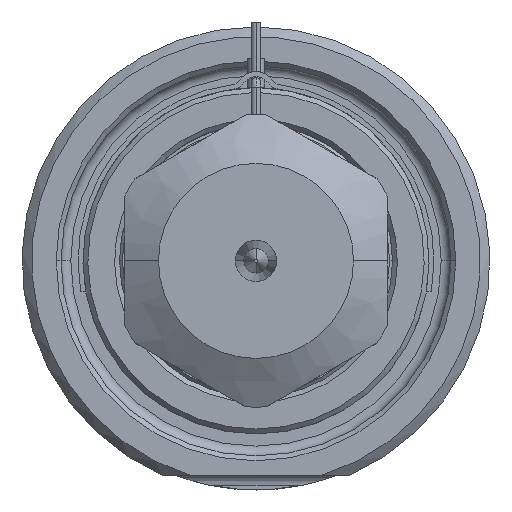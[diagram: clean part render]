
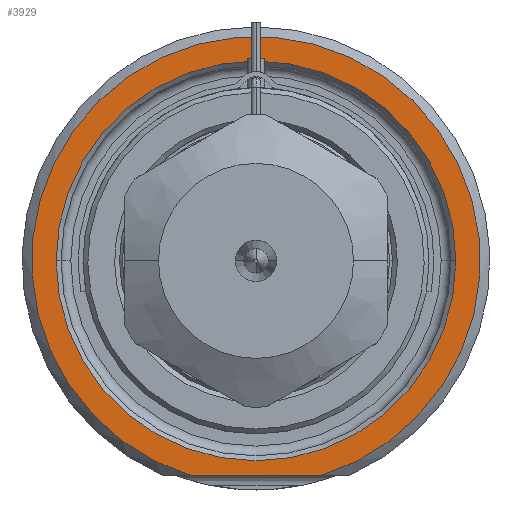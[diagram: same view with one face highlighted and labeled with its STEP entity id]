
A CAD part, front view. The second image highlights one B-rep face of the part: STEP entity #3929.
In plain terms, the highlighted planar face has unit normal (0, -1, 0).
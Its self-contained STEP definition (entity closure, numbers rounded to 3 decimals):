
#1=DIRECTION('',(1.,0.,0.));
#2=VECTOR('',#1,13.416);
#3=CARTESIAN_POINT('',(-6.708,0.,-22.));
#4=LINE('',#3,#2);
#5=CARTESIAN_POINT('',(0.,0.,0.));
#6=DIRECTION('',(0.,1.,0.));
#7=DIRECTION('',(-1.,0.,0.));
#8=AXIS2_PLACEMENT_3D('',#5,#6,#7);
#10=CARTESIAN_POINT('',(0.,0.,0.));
#11=DIRECTION('',(0.,1.,0.));
#12=DIRECTION('',(1.,0.,0.));
#13=AXIS2_PLACEMENT_3D('',#10,#11,#12);
#121=CARTESIAN_POINT('',(0.,0.,0.));
#122=DIRECTION('',(0.,-1.,0.));
#123=DIRECTION('',(0.292,0.,-0.957));
#124=AXIS2_PLACEMENT_3D('',#121,#122,#123);
#3297=CARTESIAN_POINT('',(-20.5,0.,0.));
#3298=CARTESIAN_POINT('',(20.5,0.,0.));
#3299=VERTEX_POINT('',#3297);
#3300=VERTEX_POINT('',#3298);
#3337=CARTESIAN_POINT('',(-6.708,0.,-22.));
#3338=CARTESIAN_POINT('',(6.708,0.,-22.));
#3339=VERTEX_POINT('',#3337);
#3340=VERTEX_POINT('',#3338);
#3912=CARTESIAN_POINT('',(0.,0.,0.));
#3913=DIRECTION('',(0.,-1.,0.));
#3914=DIRECTION('',(1.,0.,0.));
#3915=AXIS2_PLACEMENT_3D('',#3912,#3913,#3914);
#3916=PLANE('',#3915);
#3918=ORIENTED_EDGE('',*,*,#3917,.F.);
#3920=ORIENTED_EDGE('',*,*,#3919,.F.);
#3921=EDGE_LOOP('',(#3918,#3920));
#3922=FACE_OUTER_BOUND('',#3921,.F.);
#3924=ORIENTED_EDGE('',*,*,#3923,.F.);
#3926=ORIENTED_EDGE('',*,*,#3925,.F.);
#3927=EDGE_LOOP('',(#3924,#3926));
#3928=FACE_BOUND('',#3927,.F.);
#3929=ADVANCED_FACE('',(#3922,#3928),#3916,.T.);
#9=CIRCLE('',#8,20.5);
#14=CIRCLE('',#13,20.5);
#125=CIRCLE('',#124,23.);
#3917=EDGE_CURVE('',#3339,#3340,#4,.T.);
#3919=EDGE_CURVE('',#3340,#3339,#125,.T.);
#3923=EDGE_CURVE('',#3299,#3300,#9,.T.);
#3925=EDGE_CURVE('',#3300,#3299,#14,.T.);
